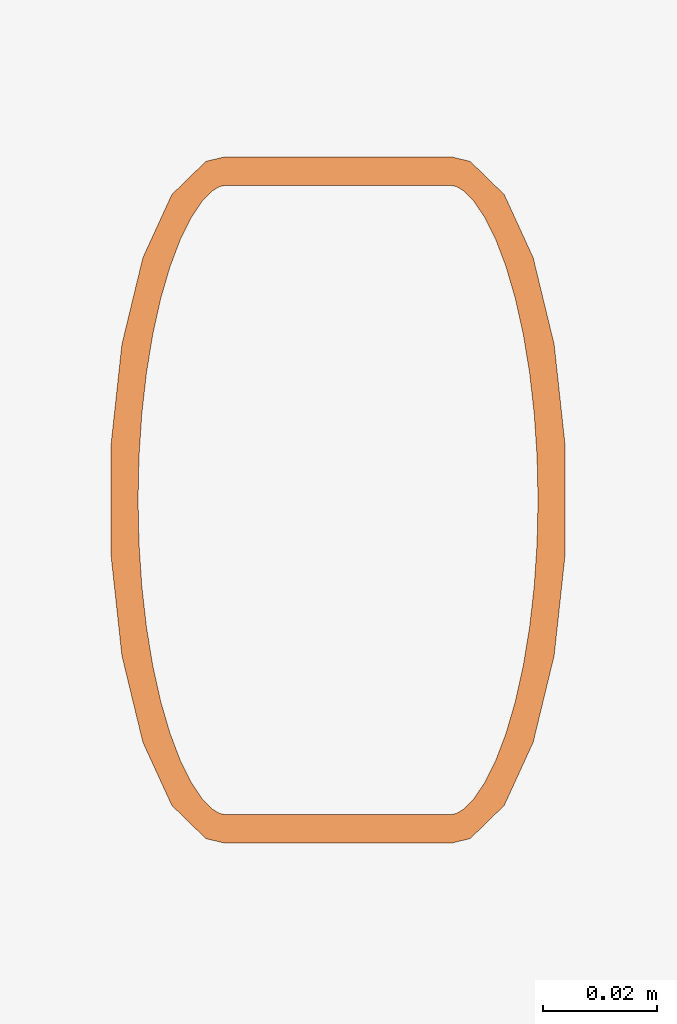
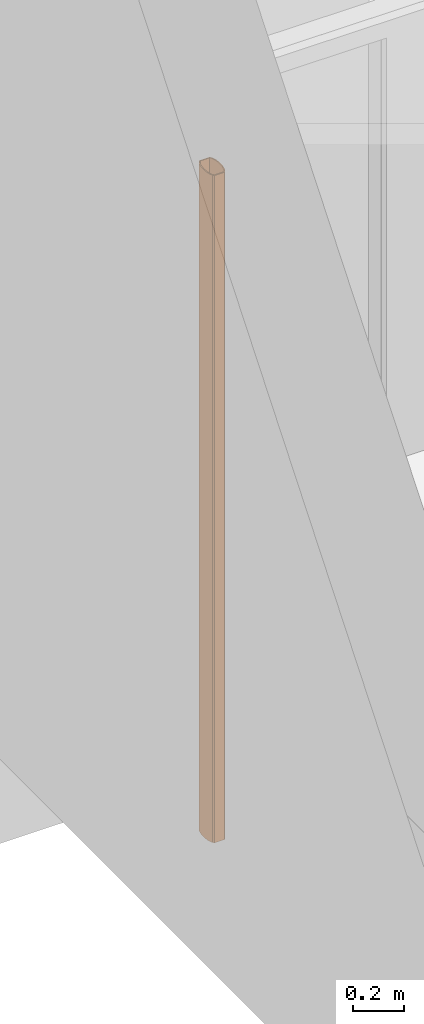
# One storey, part 126 of 128: 1 proxy.
"""IFC2X3 building model written with IfcOpenShell, lengths in metres."""

from ifc_helpers import new_model, entity, si_unit, converted_unit, derived_unit, direction, frame, origin, place, context, subcontext, project, spatial, polyline, outline, extrude, source, transform, mapped, material, type_object, type_shapes, element, save


model = new_model("IFC2X3")

# Units and contexts
model_context = context("Model", 3, precision=1e-05, world=origin(), true_north=direction((6.123031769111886e-17, 1.0)))
body_context = subcontext(model_context, "Body", "Model", "MODEL_VIEW")
ifc_project = project(units=[si_unit("LENGTHUNIT", "METRE"), si_unit("AREAUNIT", "SQUARE_METRE"), converted_unit("PLANEANGLEUNIT", "DEGREE", entity("IfcPlaneAngleMeasure", 0.017453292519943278), si_unit("PLANEANGLEUNIT", "RADIAN"), dimensions=[0, 0, 0, 0, 0, 0, 0]), derived_unit("THERMALTRANSMITTANCEUNIT", [(si_unit("MASSUNIT", "GRAM", prefix="KILO"), 1), (si_unit("THERMODYNAMICTEMPERATUREUNIT", "KELVIN"), -1), (si_unit("TIMEUNIT", "SECOND"), -3)])], contexts=[model_context])

# Site, building, storey
site_placement = place(None, origin())
site = spatial("IfcSite", under=ifc_project, at=site_placement, Name="Default", CompositionType="ELEMENT")
building_placement = place(site_placement, origin())
building = spatial("IfcBuilding", under=site, at=building_placement, CompositionType="ELEMENT")
storey_placement = place(building_placement, origin())
storey = spatial("IfcBuildingStorey", under=building, at=storey_placement, Name="00_RDC CAF", CompositionType="ELEMENT", Elevation=2.4982504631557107e-13)

# Proxy
ifc_material = material(Name="<Unnamed>")
building_element_proxy_type = type_object("IfcBuildingElementProxyType", Name="Eq_Elec_Colonne_Electrique:Eq_Elec_Colonne_Electrique_120x80mm", PredefinedType="NOTDEFINED", material=ifc_material)
shared_shape = source(origin(), body_context, "Body", "SweptSolid", [
    extrude(outline(polyline([(-0.020000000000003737, -0.05999999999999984), (0.019999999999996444, -0.05999999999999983), (0.023128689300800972, -0.05926130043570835), (0.02907980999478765, -0.053460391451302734), (0.03414213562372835, -0.042426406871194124), (0.0378201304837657, -0.027239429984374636), (0.03975376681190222, -0.009386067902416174), (0.03975376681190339, 0.009386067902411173), (0.03782013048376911, 0.02723942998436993), (0.03414213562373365, 0.04242640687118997), (0.029079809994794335, 0.05346039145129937), (0.02312868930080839, 0.05926130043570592), (0.020000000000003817, 0.05999999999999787), (-0.019999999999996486, 0.06000000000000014), (-0.02312868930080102, 0.05926130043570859), (-0.029079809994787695, 0.05346039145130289), (-0.034142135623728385, 0.042426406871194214), (-0.03782013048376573, 0.02723942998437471), (-0.03975376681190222, 0.009386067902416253), (-0.03975376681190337, -0.009386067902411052), (-0.037820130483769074, -0.02723942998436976), (-0.03414213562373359, -0.04242640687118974), (-0.02907980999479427, -0.053460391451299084), (-0.023128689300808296, -0.05926130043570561), (-0.020000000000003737, -0.05999999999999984)]), holes=[polyline([(-0.020000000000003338, -0.054999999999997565), (-0.020774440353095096, -0.05483604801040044), (-0.0220433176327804, -0.05405805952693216), (-0.023758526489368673, -0.05229805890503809), (-0.025667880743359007, -0.04946080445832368), (-0.027588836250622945, -0.04560885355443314), (-0.029398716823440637, -0.04084541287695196), (-0.031022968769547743, -0.03528665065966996), (-0.032410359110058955, -0.029054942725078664), (-0.03352451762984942, -0.02227710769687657), (-0.03433829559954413, -0.015084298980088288), (-0.03483355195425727, -0.007612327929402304), (-0.035000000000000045, 0.0), (-0.03483355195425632, 0.007612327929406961), (-0.03433829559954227, 0.01508429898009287), (-0.033524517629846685, 0.022277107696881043), (-0.03241035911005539, 0.02905494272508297), (-0.031022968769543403, 0.035286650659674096), (-0.02939871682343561, 0.04084541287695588), (-0.027588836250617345, 0.04560885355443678), (-0.025667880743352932, 0.04946080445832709), (-0.02375852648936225, 0.052298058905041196), (-0.022043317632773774, 0.054058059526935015), (-0.020774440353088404, 0.05483604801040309), (-0.019999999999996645, 0.05500000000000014), (0.020000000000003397, 0.05499999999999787), (0.020774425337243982, 0.054836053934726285), (0.022043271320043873, 0.05405809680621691), (0.023758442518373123, 0.05229816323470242), (0.025667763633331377, 0.049461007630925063), (0.02758869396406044, 0.04560918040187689), (0.02939856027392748, 0.04084588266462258), (0.03102280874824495, 0.03528727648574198), (0.0324102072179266, 0.02905573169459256), (0.03352438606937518, 0.022278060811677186), (0.034338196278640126, 0.015085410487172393), (0.03483349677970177, 0.007613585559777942), (0.0349999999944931, 1.3846905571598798e-06), (0.03483361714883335, -0.007610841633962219), (0.03433843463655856, -0.01508274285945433), (0.03352473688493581, -0.022275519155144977), (0.03241066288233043, -0.029053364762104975), (0.031023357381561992, -0.03528513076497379), (0.02939918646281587, -0.04084400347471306), (0.02758937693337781, -0.045607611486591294), (0.025668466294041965, -0.04945978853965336), (0.023759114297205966, -0.05229732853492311), (0.022043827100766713, -0.05405764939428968), (0.02077478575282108, -0.054835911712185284), (0.020000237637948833, -0.05500000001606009), (-0.020000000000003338, -0.054999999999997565)])]), frame((0.0, 0.0, 0.0), z_axis=(0.0, 0.0, 1.0), x_axis=(0.0, -1.0, 0.0)), (0.0, 0.0, 1.0), 3.2),
])
type_shapes(building_element_proxy_type, [shared_shape])
proxy_placement = place(storey_placement, frame((6.764598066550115, 141.95449110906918, 0.0), z_axis=(0.0, 0.0, 1.0), x_axis=(0.0, -1.0, 0.0)))
element("IfcBuildingElementProxy", 1, at=proxy_placement, inside=storey, type_object=building_element_proxy_type, material=ifc_material, Name="Eq_Elec_Colonne_Electrique:Eq_Elec_Colonne_Electrique_120x80mm", ObjectType="Eq_Elec_Colonne_Electrique:Eq_Elec_Colonne_Electrique_120x80mm", context=body_context, shape_type="MappedRepresentation", body=[
    mapped(shared_shape, transform((0.0, 0.0, 0.0), scale=1.0)),
])

save(model, "model.ifc")
